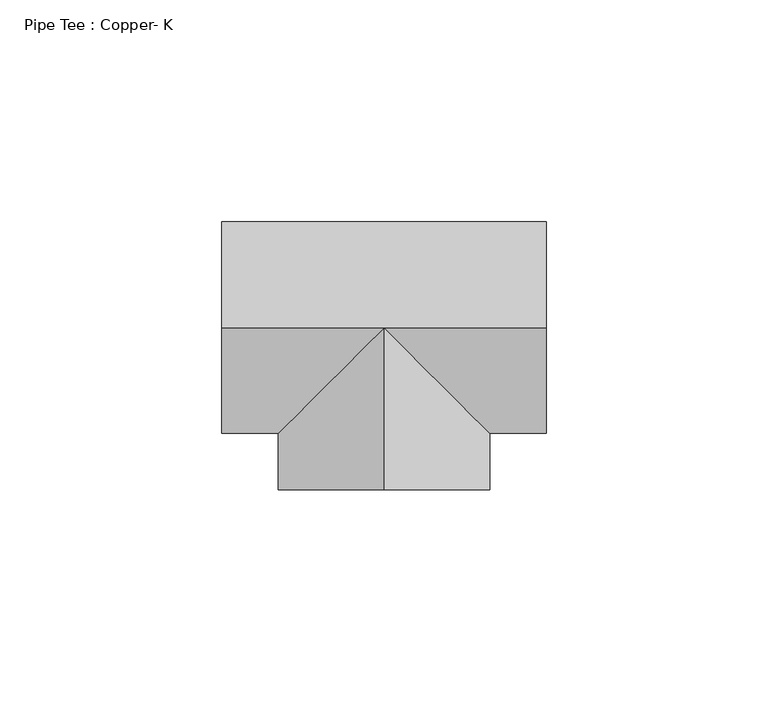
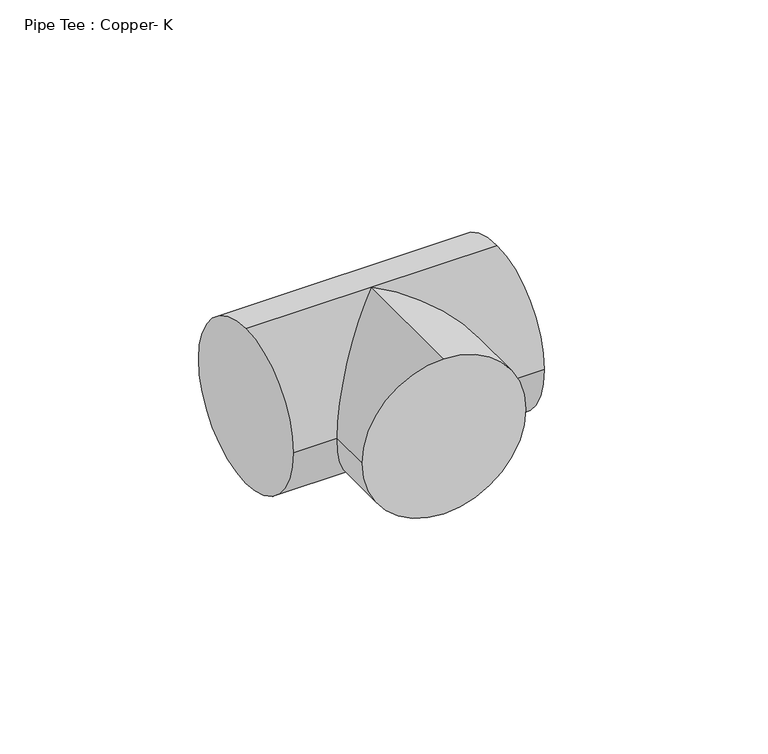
"""IFC4 building model written with IfcOpenShell, lengths in millimetres: pipe fitting geometry, Pipe Tee : Copper- K."""

from ifc_helpers import new_model, si_unit, frame, origin, place, context, project, spatial, circle_curve, ellipse_curve, source, transform, mapped, element, save
from ifc_brep_helpers import plane_surface, cylinder_surface, advanced_brep


def pipe_tee_copper_k_01efa584(model_context):
    return source(origin(), model_context, "Body", "AdvancedBrep", [
        advanced_brep(
        [(-36.5125, 0.0, 23.8125), (-36.5125, 23.8125, 0.0), (-36.5125, 0.0, -23.8125), (-36.5125, -23.8125, 0.0), (36.5125, 0.0, 23.8125), (36.5125, -23.8125, 0.0), (36.5125, 0.0, -23.8125), (36.5125, 23.8125, 0.0), (0.0, 0.0, 23.8125), (0.0, 0.0, -23.8125), (-23.811372, -23.8125, 0.0), (23.8136281, -23.8125, 0.0), (0.0017296, -36.5125, 23.8125), (-23.8107703, -36.513628, 0.0), (0.0017296, -36.5125, -23.8125), (23.8142296, -36.5113719, 0.0)],
        [
            (0, 1, circle_curve(frame((-36.5125, 0.0, 0.0), z_axis=(-1.0, 0.0, 0.0), x_axis=(0.0, 1.0, 0.0)), 23.8125)),
            (1, 2, circle_curve(frame((-36.5125, 0.0, 0.0), z_axis=(-1.0, 0.0, 0.0), x_axis=(0.0, 1.0, 0.0)), 23.8125)),
            (2, 3, circle_curve(frame((-36.5125, 0.0, 0.0), z_axis=(-1.0, 0.0, 0.0), x_axis=(0.0, 1.0, 0.0)), 23.8125)),
            (3, 0, circle_curve(frame((-36.5125, 0.0, 0.0), z_axis=(-1.0, 0.0, 0.0), x_axis=(0.0, 1.0, 0.0)), 23.8125)),
            (4, 5, circle_curve(frame((36.5125, 0.0, 0.0), z_axis=(1.0, 0.0, 0.0), x_axis=(0.0, 1.0, 0.0)), 23.8125)),
            (5, 6, circle_curve(frame((36.5125, 0.0, 0.0), z_axis=(1.0, 0.0, 0.0), x_axis=(0.0, 1.0, 0.0)), 23.8125)),
            (6, 7, circle_curve(frame((36.5125, 0.0, 0.0), z_axis=(1.0, 0.0, 0.0), x_axis=(0.0, 1.0, 0.0)), 23.8125)),
            (7, 4, circle_curve(frame((36.5125, 0.0, 0.0), z_axis=(1.0, 0.0, 0.0), x_axis=(0.0, 1.0, 0.0)), 23.8125)),
            (0, 8),
            (8, 4),
            (7, 1),
            (6, 9),
            (9, 2),
            (9, 10, ellipse_curve(frame((0.0, 0.0, 0.0), z_axis=(-0.7071235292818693, 0.7070900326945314, 0.0), x_axis=(-0.7070900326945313, -0.7071235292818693, 0.0)), 33.6751628, 23.8125)),
            (10, 3),
            (5, 11),
            (11, 9, ellipse_curve(frame((0.0, 0.0, 0.0), z_axis=(0.7070900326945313, 0.7071235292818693, 0.0), x_axis=(-0.7071235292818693, 0.7070900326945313, 0.0)), 33.6767581, 23.8125)),
            (10, 8, ellipse_curve(frame((0.0, 0.0, 0.0), z_axis=(-0.7071235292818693, 0.7070900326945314, 0.0), x_axis=(-0.7070900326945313, -0.7071235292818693, 0.0)), 33.6751628, 23.8125)),
            (8, 11, ellipse_curve(frame((0.0, 0.0, 0.0), z_axis=(0.7070900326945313, 0.7071235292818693, 0.0), x_axis=(-0.7071235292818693, 0.7070900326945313, 0.0)), 33.6767581, 23.8125)),
            (12, 13, circle_curve(frame((0.0017296, -36.5125, 0.0), z_axis=(4.737132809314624e-05, -0.9999999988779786, 0.0), x_axis=(0.9999999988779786, 4.737132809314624e-05, 0.0)), 23.8125)),
            (13, 14, circle_curve(frame((0.0017296, -36.5125, 0.0), z_axis=(4.737132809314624e-05, -0.9999999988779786, 0.0), x_axis=(0.9999999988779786, 4.737132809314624e-05, 0.0)), 23.8125)),
            (14, 15, circle_curve(frame((0.0017296, -36.5125, 0.0), z_axis=(4.737132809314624e-05, -0.9999999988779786, 0.0), x_axis=(0.9999999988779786, 4.737132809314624e-05, 0.0)), 23.8125)),
            (15, 12, circle_curve(frame((0.0017296, -36.5125, 0.0), z_axis=(4.737132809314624e-05, -0.9999999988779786, 0.0), x_axis=(0.9999999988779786, 4.737132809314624e-05, 0.0)), 23.8125)),
            (15, 11),
            (8, 12),
            (14, 9),
            (13, 10),
        ],
        [
            plane_surface(frame((-36.5125, 0.0, 0.0), z_axis=(-1.0, 0.0, 0.0), x_axis=(0.0, 0.0, 1.0))),
            plane_surface(frame((36.5125, 0.0, 0.0), z_axis=(1.0, 0.0, 0.0), x_axis=(0.0, 0.0, 1.0))),
            cylinder_surface(frame((-36.5125, 0.0, 0.0), z_axis=(-1.0, 0.0, 0.0), x_axis=(0.0, 1.0, 0.0)), 23.8125),
            plane_surface(frame((0.0017296, -36.5125, 0.0), z_axis=(4.737132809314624e-05, -0.9999999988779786, 0.0), x_axis=(0.0, 0.0, 1.0))),
            cylinder_surface(frame((0.0, 0.0, 0.0), z_axis=(-4.737132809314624e-05, 0.9999999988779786, 0.0), x_axis=(0.9999999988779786, 4.737132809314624e-05, 0.0)), 23.8125),
        ],
        [
            (0, [[1, 2, 3, 4]]),
            (1, [[5, 6, 7, 8]]),
            (2, [[-1, 9, 10, -8, 11]]),
            (2, [[-2, -11, -7, 12, 13]]),
            (2, [[-3, -13, 14, 15]]),
            (2, [[-6, 16, 17, -12]]),
            (2, [[-4, -15, 18, -9]]),
            (2, [[-5, -10, 19, -16]]),
            (3, [[20, 21, 22, 23]]),
            (4, [[-23, 24, -19, 25]]),
            (4, [[-22, 26, -17, -24]]),
            (4, [[-21, 27, -14, -26]]),
            (4, [[-20, -25, -18, -27]]),
        ],
    ),
        advanced_brep(
        [(-36.5125, 0.0, 23.8125), (-36.5125, 23.8125, 0.0), (-36.5125, 0.0, -23.8125), (-36.5125, -23.8125, 0.0), (36.5125, 0.0, 23.8125), (36.5125, -23.8125, 0.0), (36.5125, 0.0, -23.8125), (36.5125, 23.8125, 0.0), (0.0, 0.0, 23.8125), (0.0, 0.0, -23.8125), (-23.811372, -23.8125, 0.0), (23.8136281, -23.8125, 0.0), (0.0017296, -36.5125, 23.8125), (-23.8107703, -36.513628, 0.0), (0.0017296, -36.5125, -23.8125), (23.8142296, -36.5113719, 0.0)],
        [
            (0, 1, circle_curve(frame((-36.5125, 0.0, 0.0), z_axis=(-1.0, 0.0, 0.0), x_axis=(0.0, 1.0, 0.0)), 23.8125)),
            (1, 2, circle_curve(frame((-36.5125, 0.0, 0.0), z_axis=(-1.0, 0.0, 0.0), x_axis=(0.0, 1.0, 0.0)), 23.8125)),
            (2, 3, circle_curve(frame((-36.5125, 0.0, 0.0), z_axis=(-1.0, 0.0, 0.0), x_axis=(0.0, 1.0, 0.0)), 23.8125)),
            (3, 0, circle_curve(frame((-36.5125, 0.0, 0.0), z_axis=(-1.0, 0.0, 0.0), x_axis=(0.0, 1.0, 0.0)), 23.8125)),
            (4, 5, circle_curve(frame((36.5125, 0.0, 0.0), z_axis=(1.0, 0.0, 0.0), x_axis=(0.0, 1.0, 0.0)), 23.8125)),
            (5, 6, circle_curve(frame((36.5125, 0.0, 0.0), z_axis=(1.0, 0.0, 0.0), x_axis=(0.0, 1.0, 0.0)), 23.8125)),
            (6, 7, circle_curve(frame((36.5125, 0.0, 0.0), z_axis=(1.0, 0.0, 0.0), x_axis=(0.0, 1.0, 0.0)), 23.8125)),
            (7, 4, circle_curve(frame((36.5125, 0.0, 0.0), z_axis=(1.0, 0.0, 0.0), x_axis=(0.0, 1.0, 0.0)), 23.8125)),
            (0, 8),
            (8, 4),
            (7, 1),
            (6, 9),
            (9, 2),
            (9, 10, ellipse_curve(frame((0.0, 0.0, 0.0), z_axis=(-0.7071235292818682, 0.7070900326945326, 0.0), x_axis=(-0.7070900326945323, -0.7071235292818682, 0.0)), 33.6751628, 23.8125)),
            (10, 3),
            (5, 11),
            (11, 9, ellipse_curve(frame((0.0, 0.0, 0.0), z_axis=(0.7070900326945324, 0.7071235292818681, 0.0), x_axis=(-0.7071235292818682, 0.7070900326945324, 0.0)), 33.6767581, 23.8125)),
            (10, 8, ellipse_curve(frame((0.0, 0.0, 0.0), z_axis=(-0.7071235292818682, 0.7070900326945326, 0.0), x_axis=(-0.7070900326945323, -0.7071235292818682, 0.0)), 33.6751628, 23.8125)),
            (8, 11, ellipse_curve(frame((0.0, 0.0, 0.0), z_axis=(0.7070900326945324, 0.7071235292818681, 0.0), x_axis=(-0.7071235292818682, 0.7070900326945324, 0.0)), 33.6767581, 23.8125)),
            (12, 13, circle_curve(frame((0.0017296, -36.5125, 0.0), z_axis=(4.737132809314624e-05, -0.9999999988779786, 0.0), x_axis=(0.9999999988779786, 4.737132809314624e-05, 0.0)), 23.8125)),
            (13, 14, circle_curve(frame((0.0017296, -36.5125, 0.0), z_axis=(4.737132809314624e-05, -0.9999999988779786, 0.0), x_axis=(0.9999999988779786, 4.737132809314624e-05, 0.0)), 23.8125)),
            (14, 15, circle_curve(frame((0.0017296, -36.5125, 0.0), z_axis=(4.737132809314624e-05, -0.9999999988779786, 0.0), x_axis=(0.9999999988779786, 4.737132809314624e-05, 0.0)), 23.8125)),
            (15, 12, circle_curve(frame((0.0017296, -36.5125, 0.0), z_axis=(4.737132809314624e-05, -0.9999999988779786, 0.0), x_axis=(0.9999999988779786, 4.737132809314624e-05, 0.0)), 23.8125)),
            (15, 11),
            (8, 12),
            (14, 9),
            (13, 10),
        ],
        [
            plane_surface(frame((-36.5125, 0.0, 0.0), z_axis=(-1.0, 0.0, 0.0), x_axis=(0.0, 0.0, 1.0))),
            plane_surface(frame((36.5125, 0.0, 0.0), z_axis=(1.0, 0.0, 0.0), x_axis=(0.0, 0.0, 1.0))),
            cylinder_surface(frame((-36.5125, 0.0, 0.0), z_axis=(-1.0, 0.0, 0.0), x_axis=(0.0, 1.0, 0.0)), 23.8125),
            plane_surface(frame((0.0017296, -36.5125, 0.0), z_axis=(4.737132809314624e-05, -0.9999999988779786, 0.0), x_axis=(0.0, 0.0, 1.0))),
            cylinder_surface(frame((0.0, 0.0, 0.0), z_axis=(-4.737132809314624e-05, 0.9999999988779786, 0.0), x_axis=(0.9999999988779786, 4.737132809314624e-05, 0.0)), 23.8125),
        ],
        [
            (0, [[1, 2, 3, 4]]),
            (1, [[5, 6, 7, 8]]),
            (2, [[-1, 9, 10, -8, 11]]),
            (2, [[-2, -11, -7, 12, 13]]),
            (2, [[-3, -13, 14, 15]]),
            (2, [[-6, 16, 17, -12]]),
            (2, [[-4, -15, 18, -9]]),
            (2, [[-5, -10, 19, -16]]),
            (3, [[20, 21, 22, 23]]),
            (4, [[-23, 24, -19, 25]]),
            (4, [[-22, 26, -17, -24]]),
            (4, [[-21, 27, -14, -26]]),
            (4, [[-20, -25, -18, -27]]),
        ],
    ),
    ])


if __name__ == "__main__":
    model = new_model("IFC4")
    model_context = context("Model", 3, world=origin())
    ifc_project = project(units=[si_unit("LENGTHUNIT", "METRE", prefix="MILLI")], contexts=[model_context])
    site = spatial("IfcSite", under=ifc_project)
    building = spatial("IfcBuilding", under=site)
    placement = place(None, origin())
    pipe_tee_copper_k_shape = pipe_tee_copper_k_01efa584(model_context)
    element("IfcPipeFitting", 1, ObjectType="Pipe Tee : Copper- K", at=placement, inside=building, context=model_context, shape_type="MappedRepresentation", body=[
        mapped(pipe_tee_copper_k_shape, transform((0.0, 0.0, 0.0), x_axis=(1.0, 0.0, 0.0), y_axis=(0.0, 1.0, 0.0), z_axis=(0.0, 0.0, 1.0))),
    ])
    save(model, "model.ifc")
